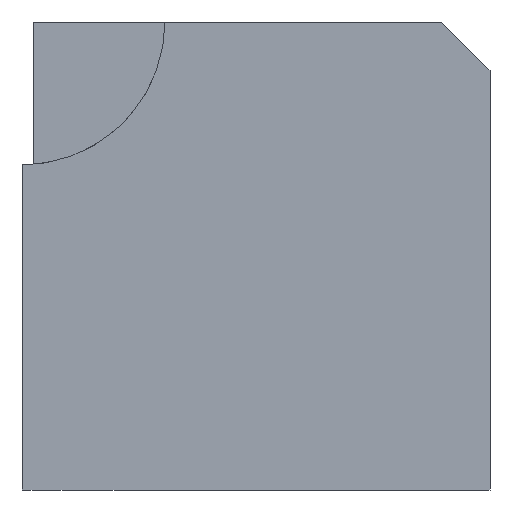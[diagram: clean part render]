
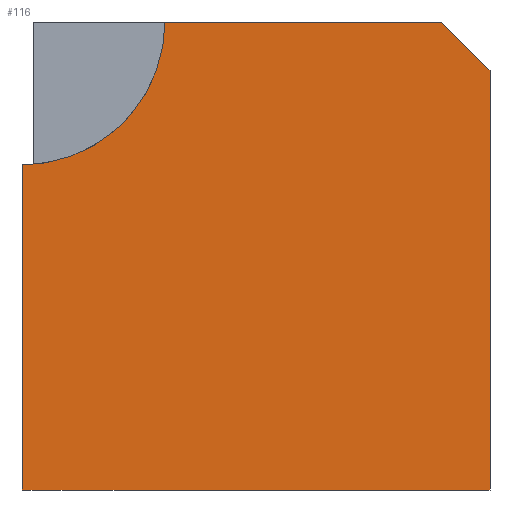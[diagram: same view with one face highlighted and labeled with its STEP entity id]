
A CAD part, left-side view. The second image highlights one B-rep face of the part: STEP entity #116.
In plain terms, the highlighted planar face has unit normal (-1, 0, 0).
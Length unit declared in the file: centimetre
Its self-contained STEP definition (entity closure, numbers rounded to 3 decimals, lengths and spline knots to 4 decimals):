
#17 = CARTESIAN_POINT ( 'NONE',  ( 0., 1000., 0. ) ) ;
#18 = CARTESIAN_POINT ( 'NONE',  ( 0., 694.6249, 1000. ) ) ;
#19 = EDGE_CURVE ( 'NONE', #186, #286, #358, .T. ) ;
#27 = CIRCLE ( 'NONE', #282, 305.3751 ) ;
#32 = CARTESIAN_POINT ( 'NONE',  ( 0., 1000., 0. ) ) ;
#52 = ORIENTED_EDGE ( 'NONE', *, *, #19, .T. ) ;
#73 = CARTESIAN_POINT ( 'NONE',  ( 0., 102.7123, 1000. ) ) ;
#74 = ORIENTED_EDGE ( 'NONE', *, *, #178, .F. ) ;
#75 = CARTESIAN_POINT ( 'NONE',  ( 0., 1000., 1000. ) ) ;
#86 = VERTEX_POINT ( 'NONE', #18 ) ;
#111 = VECTOR ( 'NONE', #137, 100. ) ;
#116 = ADVANCED_FACE ( 'NONE', ( #365 ), #182, .F. ) ;
#134 = CARTESIAN_POINT ( 'NONE',  ( 0., 0., 0. ) ) ;
#137 = DIRECTION ( 'NONE',  ( 0., -1., 0. ) ) ;
#141 = VERTEX_POINT ( 'NONE', #32 ) ;
#145 = CARTESIAN_POINT ( 'NONE',  ( 0., 102.7123, 1000. ) ) ;
#156 = CARTESIAN_POINT ( 'NONE',  ( 0., 1000., 1000. ) ) ;
#169 = CARTESIAN_POINT ( 'NONE',  ( 0., 1000., 694.6249 ) ) ;
#171 = ORIENTED_EDGE ( 'NONE', *, *, #316, .T. ) ;
#178 = EDGE_CURVE ( 'NONE', #186, #225, #209, .T. ) ;
#182 = PLANE ( 'NONE',  #295 ) ;
#186 = VERTEX_POINT ( 'NONE', #301 ) ;
#197 = DIRECTION ( 'NONE',  ( 0., 0., -1. ) ) ;
#199 = DIRECTION ( 'NONE',  ( 0., 0., 1. ) ) ;
#204 = EDGE_CURVE ( 'NONE', #325, #86, #27, .T. ) ;
#205 = DIRECTION ( 'NONE',  ( 0., 0.707, 0.707 ) ) ;
#209 = LINE ( 'NONE', #276, #302 ) ;
#214 = VECTOR ( 'NONE', #197, 100. ) ;
#221 = EDGE_LOOP ( 'NONE', ( #284, #254, #370, #171, #74, #52 ) ) ;
#225 = VERTEX_POINT ( 'NONE', #134 ) ;
#254 = ORIENTED_EDGE ( 'NONE', *, *, #204, .F. ) ;
#264 = LINE ( 'NONE', #354, #336 ) ;
#276 = CARTESIAN_POINT ( 'NONE',  ( 0., 0., 1000. ) ) ;
#282 = AXIS2_PLACEMENT_3D ( 'NONE', #380, #312, #199 ) ;
#284 = ORIENTED_EDGE ( 'NONE', *, *, #341, .F. ) ;
#286 = VERTEX_POINT ( 'NONE', #73 ) ;
#287 = LINE ( 'NONE', #17, #111 ) ;
#295 = AXIS2_PLACEMENT_3D ( 'NONE', #156, #340, #374 ) ;
#301 = CARTESIAN_POINT ( 'NONE',  ( 0., 0., 897.2877 ) ) ;
#302 = VECTOR ( 'NONE', #333, 100. ) ;
#312 = DIRECTION ( 'NONE',  ( -1., 0., 0. ) ) ;
#316 = EDGE_CURVE ( 'NONE', #141, #225, #287, .T. ) ;
#325 = VERTEX_POINT ( 'NONE', #169 ) ;
#333 = DIRECTION ( 'NONE',  ( 0., 0., -1. ) ) ;
#336 = VECTOR ( 'NONE', #383, 100. ) ;
#340 = DIRECTION ( 'NONE',  ( 1., 0., 0. ) ) ;
#341 = EDGE_CURVE ( 'NONE', #86, #286, #264, .T. ) ;
#346 = EDGE_CURVE ( 'NONE', #325, #141, #352, .T. ) ;
#352 = LINE ( 'NONE', #75, #214 ) ;
#354 = CARTESIAN_POINT ( 'NONE',  ( 0., 1000., 1000. ) ) ;
#358 = LINE ( 'NONE', #145, #368 ) ;
#365 = FACE_OUTER_BOUND ( 'NONE', #221, .T. ) ;
#368 = VECTOR ( 'NONE', #205, 100. ) ;
#370 = ORIENTED_EDGE ( 'NONE', *, *, #346, .T. ) ;
#374 = DIRECTION ( 'NONE',  ( 0., 0., -1. ) ) ;
#380 = CARTESIAN_POINT ( 'NONE',  ( 0., 1000., 1000. ) ) ;
#383 = DIRECTION ( 'NONE',  ( 0., -1., 0. ) ) ;
